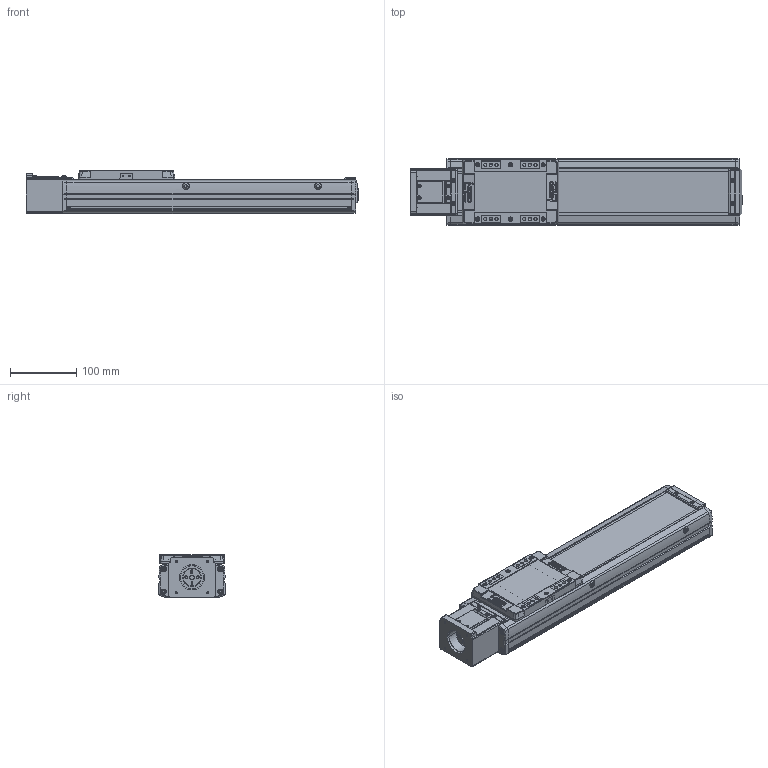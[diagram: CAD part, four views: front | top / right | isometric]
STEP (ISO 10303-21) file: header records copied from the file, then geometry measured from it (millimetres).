
FILE_DESCRIPTION(('STEP AP214'),'1');
FILE_NAME('Z:/Web/3D/SAN100/SAN100 양산용 (STEP)/SAN100ㅁㅁ-250S.stp','2013-04-25T02:34:57',(' '),(' '),'Spatial InterOp 3D',' ',' ');
FILE_SCHEMA(('automotive_design'));
Length unit declared in the file: millimetre
Products named in the file (40): SUS COVER; SFX-SAN100; RRCV-SAN100; 스크루 : Round - M4.0 x 10.0; M3.0 x 6.0; 스크루 : Round - M3.0 x 6.0; FRBL-SAN100; SLBL-SAN100; SLCV-SAN100; 스크루 : Countersunk - M3.0 x 6.0; BASE; 스크루 : Round - M5.0 x 6.0; MTHZ-SAN100-S56A; SDA26C-8-6.35; SSFX-SAN65; CPLCV-SAN65; FRCV-SAN100
Bounding box: 502.5 x 100 x 66 mm (x, y, z)
Volume: 1495598.4 mm3; surface area: 391466.4 mm2
Topology: 40 solids, 41 shells, 2372 faces, 6246 edges, 4043 vertices
Faces by surface type: plane 1137, cylinder 909, cone 209, sphere 52, torus 45, bspline 20
Entity records: 95070 total; most frequent: CARTESIAN_POINT 15027, DIRECTION 13222, ORIENTED_EDGE 12336, EDGE_CURVE 6168, AXIS2_PLACEMENT_3D 4833, VERTEX_POINT 4043, LINE 3556, VECTOR 3556
